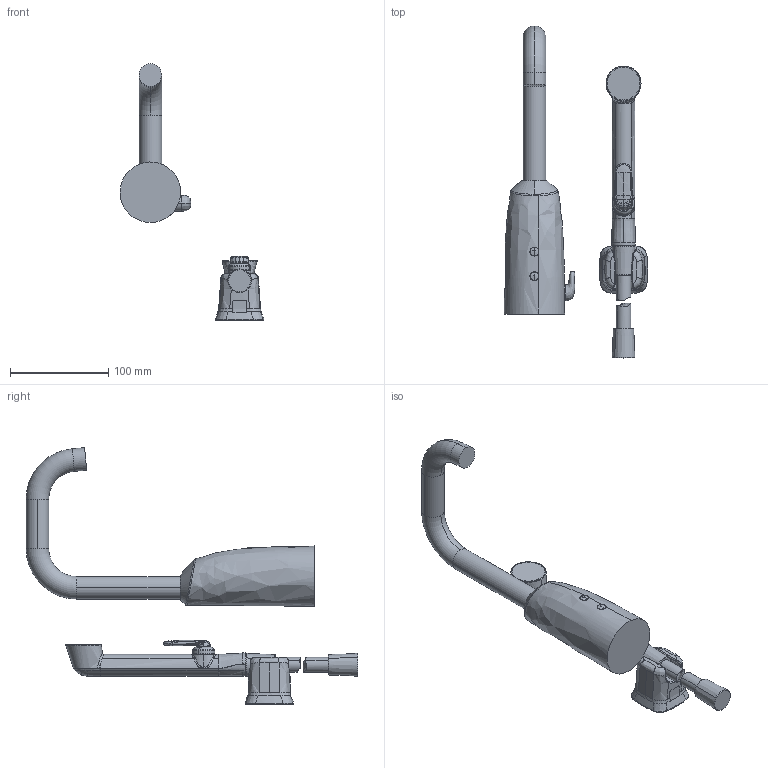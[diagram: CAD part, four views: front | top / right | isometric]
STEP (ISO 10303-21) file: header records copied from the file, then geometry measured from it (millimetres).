
FILE_DESCRIPTION (( 'STEP AP203' ), '1' );
FILE_NAME ('6332FZ(2023).STEP', '2023-10-11T07:50:15', ( '' ), ( '' ), 'SwSTEP 2.0', 'SolidWorks 2016', '' );
FILE_SCHEMA (( 'CONFIG_CONTROL_DESIGN' ));
Length unit declared in the file: millimetre
Products named in the file (1): 6332FZ(2023)
Bounding box: 146.07 x 337.11 x 260.75 mm (x, y, z)
Volume: 651041.5 mm3; surface area: 89119 mm2
Topology: 11 solids, 11 shells, 315 faces, 755 edges, 458 vertices
Faces by surface type: bspline 234, cone 27, cylinder 22, plane 20, torus 12
Entity records: 68092 total; most frequent: CARTESIAN_POINT 62643, ORIENTED_EDGE 1494, EDGE_CURVE 747, DIRECTION 592, VERTEX_POINT 458, B_SPLINE_CURVE_WITH_KNOTS 381, EDGE_LOOP 319, ADVANCED_FACE 315
